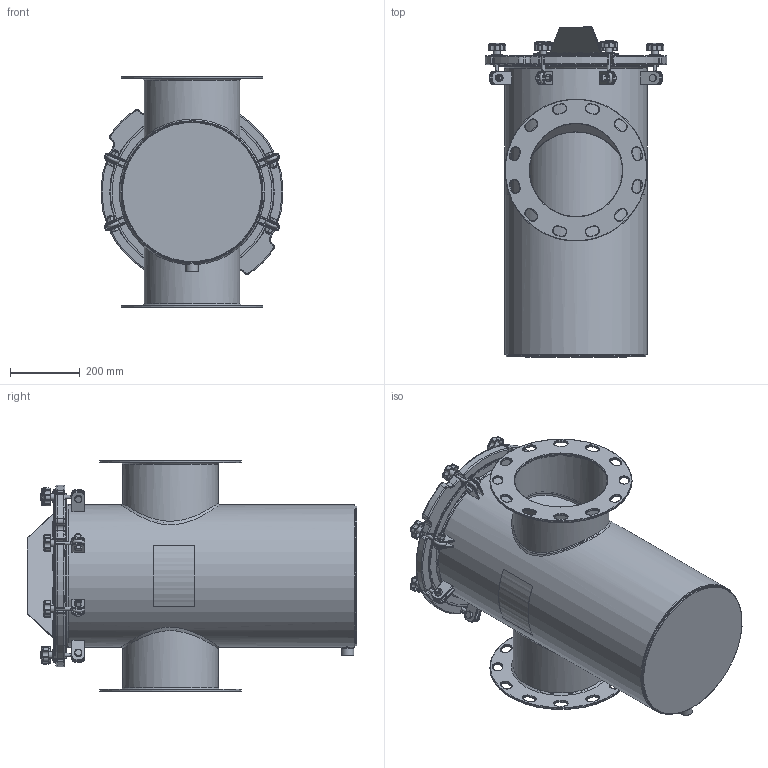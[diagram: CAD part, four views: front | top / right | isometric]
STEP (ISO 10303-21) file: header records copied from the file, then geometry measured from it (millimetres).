
FILE_DESCRIPTION(/* description */ ('16" STRAINER BODY'),/* implementation_level */ '2;1');
FILE_NAME(/* name */ 'X:\WIP\Ready for delivery - Do not Disturb -Updated with metric Flange\Workspace\SS Straight\150NBSTL10-M.stp',/* time_stamp */ '2016-09-29T19:57:12+05:00',/* author */ ('20093558'),/* organization */ (''),/* preprocessor_version */ 'ST-DEVELOPER v16.1',/* originating_system */ 'Autodesk Inventor 2016',/* authorisation */ '');
FILE_SCHEMA (('AUTOMOTIVE_DESIGN { 1 0 10303 214 3 1 1 }'));
Length unit declared in the file: inch
Products named in the file (34): NBSSBODY10_Welds; FOR NBSSBODY10; FOR 16 DIA STRAINER BODY; FOR 16 DIA STRAINER BODY_1; 16 Body; ConcentricPipe-10(_DQ) - M; 10(_DQ); For 16 Body; ASME B16.11 Half Coupling Threaded - Class 3000 3_4 x 3_4; 16 Body_1; NBSSBODY10; 150NBCVR20R2; 150NBGSK16R1; Perforated Basket 16in; Bride (Ring) 16in; Baffle 16in; Handle 16in; Bottom Strainer 16in; NBBSK10T316; BRACESTRCVR16_Welds; BRACE (BASE) FOR 16 BODY; BRACE (PROJ) FOR 16 BODY; Bumper; BRACESTRCVR16; Nut- 1_2  UNC; Bolt-1_2 x 1 1_2  UNC; EyeBolt; Washer; Knob M10; Securing Assembly with Brace; Securing Assembly without Brace; Label for 16 inch (Right); Label for 16 inch (Left); Guardian SS H&L Strainer (Inch)
Assembly tree (69 placements, depth 3):
  Guardian SS H&L Strainer (Inch)
    NBSSBODY10
      NBSSBODY10_Welds
      FOR NBSSBODY10
      FOR 16 DIA STRAINER BODY
      FOR 16 DIA STRAINER BODY_1
      16 Body  x4
      ConcentricPipe-10(_DQ) - M  x2
      10(_DQ)  x2
      For 16 Body
      ASME B16.11 Half Coupling Threaded - Class 3000 3_4 x 3_4
      16 Body_1  x16
    150NBCVR20R2
    150NBGSK16R1
    NBBSK10T316
      Perforated Basket 16in
      Bride (Ring) 16in
      Baffle 16in
      Handle 16in
      Bottom Strainer 16in
    BRACESTRCVR16
      BRACESTRCVR16_Welds
      BRACE (BASE) FOR 16 BODY
      BRACE (PROJ) FOR 16 BODY
      Bumper  x6
    Securing Assembly with Brace  x2
      Nut- 1_2  UNC
      Bolt-1_2 x 1 1_2  UNC
      EyeBolt
      Washer
      Knob M10
    Securing Assembly without Brace  x6
      Nut- 1_2  UNC
      Bolt-1_2 x 1 1_2  UNC
      EyeBolt
      Washer
      Knob M10
    Label for 16 inch (Right)
    Label for 16 inch (Left)
Bounding box: 519.38 x 942.98 x 660.4 mm (x, y, z)
Volume: 16127852.8 mm3; surface area: 5665870.9 mm2
Topology: 109 solids, 109 shells, 2338 faces, 5183 edges, 3041 vertices
Faces by surface type: cylinder 835, plane 636, torus 420, cone 189, sphere 142, bspline 116
Full cylindrical faces by diameter (mm): 3.175 x11, 6.35 x1, 8.382 x8, 9.525 x16, 10.592 x8, 12.7 x8, 15.875 x16, 19 x16, 19.05 x8, 22.8 x1, 22.809 x1, 31.75 x8, 35.052 x1, 265.113 x2, 267.492 x4, 273.05 x6, 295.275 x2, 298.45 x1, 300.99 x1, 393.7 x3, 400.05 x2, 406.4 x4, 409.575 x1, 415.925 x1, 457.2 x1, 463.55 x1, 469.9 x1
Entity records: 35082 total; most frequent: CARTESIAN_POINT 11725, DIRECTION 5066, ORIENTED_EDGE 4208, EDGE_CURVE 2104, AXIS2_PLACEMENT_3D 2103, VERTEX_POINT 1303, EDGE_LOOP 1147, CIRCLE 990
